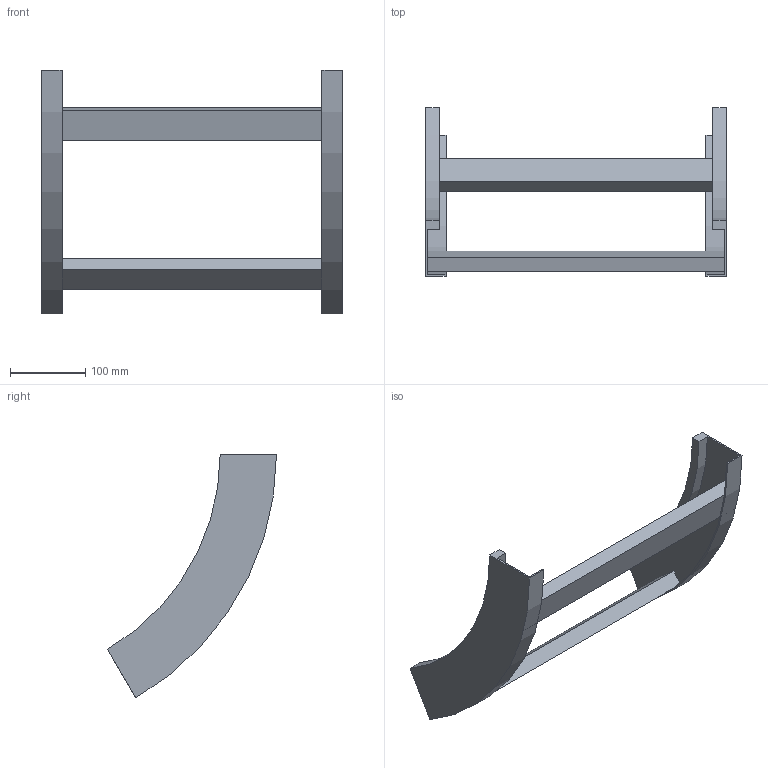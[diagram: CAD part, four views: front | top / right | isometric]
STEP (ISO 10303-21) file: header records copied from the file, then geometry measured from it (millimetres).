
FILE_DESCRIPTION (( 'STEP AP214' ), '1' );
FILE_NAME ('B2X40B3C400XX.step', '2025-03-20T10:17:53', ( '' ), ( '' ), 'SwSTEP 2.0', 'SolidWorks 2023', '' );
FILE_SCHEMA (( 'AUTOMOTIVE_DESIGN' ));
Length unit declared in the file: millimetre
Products named in the file (3): B2_LONGH.SALITA_60°_H75_R300; B2X40B3C400XX; TRAVERSINO_400
Assembly tree (4 placements, depth 2):
  B2X40B3C400XX
    B2_LONGH.SALITA_60°_H75_R300  x2
    TRAVERSINO_400  x2
Bounding box: 400 x 225 x 324.76 mm (x, y, z)
Volume: 909763.8 mm3; surface area: 269169.7 mm2
Topology: 4 solids, 4 shells, 32 faces, 72 edges, 48 vertices
Faces by surface type: plane 24, cylinder 8
Entity records: 552 total; most frequent: DIRECTION 90, CARTESIAN_POINT 83, ORIENTED_EDGE 72, EDGE_CURVE 36, AXIS2_PLACEMENT_3D 31, LINE 28, VECTOR 28, VERTEX_POINT 24
